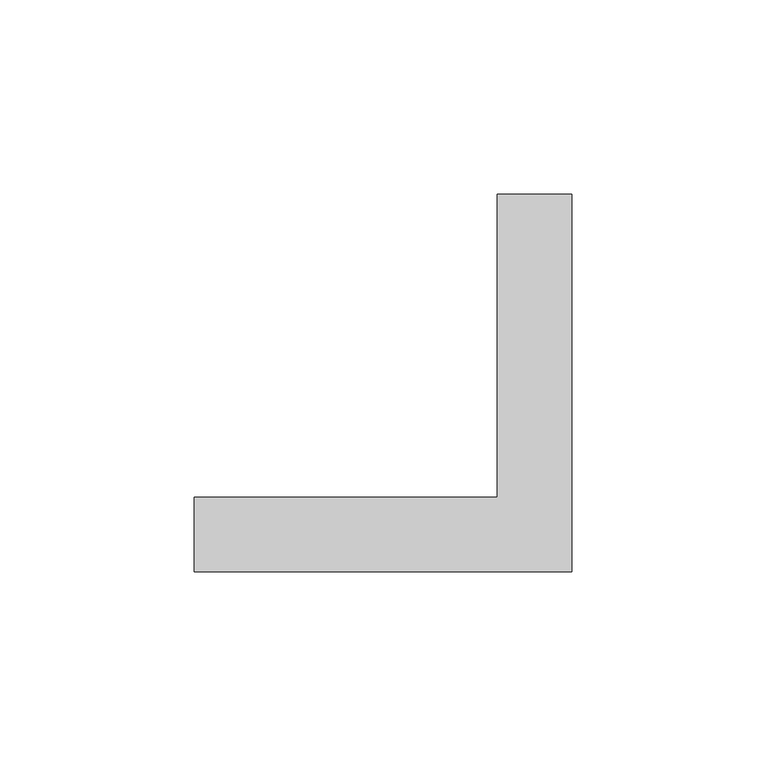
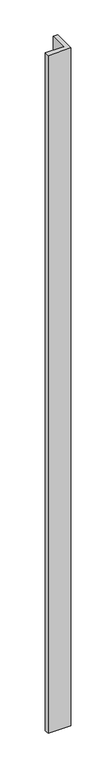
"""IFC4 building model written with IfcOpenShell, lengths in millimetres: proxy geometry, Connection-Corner-Teknion-Altos-Two_Way_FKCH90 : 90º Connection."""

from ifc_helpers import new_model, si_unit, origin, origin_with_axes, place, context, project, spatial, polyline, outline, extrude, source, transform, mapped, element, save


def specialty_equipment_7dc3c72a(model_context):
    return source(origin(), model_context, "Body", "SweptSolid", [
        extrude(outline(polyline([(-47.0296875, -50.00625), (-47.0296875, -30.95625), (30.9203128, -30.95625), (30.9203128, 46.9937503), (49.9703128, 46.9937503), (49.9703128, -50.00625), (-47.0296875, -50.00625)])), origin_with_axes(), (0.0, 0.0, 1.0), 3048.0),
    ])


if __name__ == "__main__":
    model = new_model("IFC4")
    model_context = context("Model", 3, world=origin())
    ifc_project = project(units=[si_unit("LENGTHUNIT", "METRE", prefix="MILLI")], contexts=[model_context])
    site = spatial("IfcSite", under=ifc_project)
    building = spatial("IfcBuilding", under=site)
    placement = place(None, origin())
    specialty_equipment_shape = specialty_equipment_7dc3c72a(model_context)
    element("IfcBuildingElementProxy", 1, Name="Connection-Corner-Teknion-Altos-Two_Way_FKCH90 : 90º Connection", ObjectType="Connection-Corner-Teknion-Altos-Two_Way_FKCH90 : 90º Connection", at=placement, inside=building, context=model_context, shape_type="MappedRepresentation", body=[
        mapped(specialty_equipment_shape, transform((0.0, 0.0, 0.0), x_axis=(1.0, 0.0, 0.0), y_axis=(0.0, 1.0, 0.0), z_axis=(0.0, 0.0, 1.0))),
    ])
    save(model, "model.ifc")
